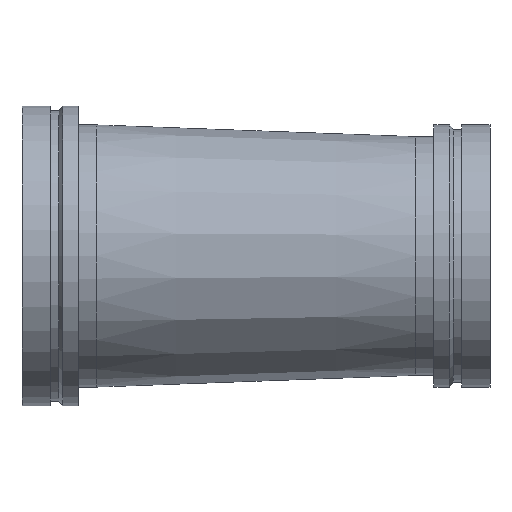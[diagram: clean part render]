
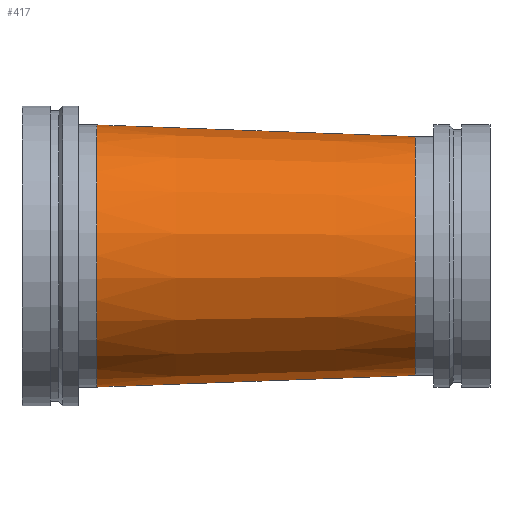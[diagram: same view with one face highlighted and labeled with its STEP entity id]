
A CAD part, top view. The second image highlights one B-rep face of the part: STEP entity #417.
In plain terms, the highlighted conical face has half-angle 2.106 degrees and reference radius 169.863 mm.
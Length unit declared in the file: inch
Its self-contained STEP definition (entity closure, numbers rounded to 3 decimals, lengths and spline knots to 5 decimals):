
#46=CONICAL_SURFACE('',#475,6.6875,0.037);
#54=LINE('',#739,#68);
#68=VECTOR('',#587,6.6875);
#101=FACE_OUTER_BOUND('',#124,.T.);
#124=EDGE_LOOP('',(#315,#316,#317,#318,#319,#320));
#155=CIRCLE('',#473,7.);
#156=CIRCLE('',#474,7.);
#157=CIRCLE('',#476,6.375);
#158=CIRCLE('',#477,6.375);
#195=VERTEX_POINT('',#729);
#196=VERTEX_POINT('',#730);
#197=VERTEX_POINT('',#735);
#198=VERTEX_POINT('',#736);
#239=EDGE_CURVE('',#195,#196,#155,.T.);
#240=EDGE_CURVE('',#196,#195,#156,.T.);
#242=EDGE_CURVE('',#197,#198,#157,.T.);
#243=EDGE_CURVE('',#198,#197,#158,.T.);
#244=EDGE_CURVE('',#198,#196,#54,.T.);
#315=ORIENTED_EDGE('',*,*,#242,.F.);
#316=ORIENTED_EDGE('',*,*,#243,.F.);
#317=ORIENTED_EDGE('',*,*,#244,.T.);
#318=ORIENTED_EDGE('',*,*,#240,.T.);
#319=ORIENTED_EDGE('',*,*,#239,.T.);
#320=ORIENTED_EDGE('',*,*,#244,.F.);
#417=ADVANCED_FACE('',(#101),#46,.T.);
#473=AXIS2_PLACEMENT_3D('',#731,#576,#577);
#474=AXIS2_PLACEMENT_3D('',#732,#578,#579);
#475=AXIS2_PLACEMENT_3D('',#734,#581,#582);
#476=AXIS2_PLACEMENT_3D('',#737,#583,#584);
#477=AXIS2_PLACEMENT_3D('',#738,#585,#586);
#576=DIRECTION('center_axis',(1.,0.,0.));
#577=DIRECTION('ref_axis',(0.,0.,-1.));
#578=DIRECTION('center_axis',(1.,0.,0.));
#579=DIRECTION('ref_axis',(0.,0.,-1.));
#581=DIRECTION('center_axis',(-1.,0.,0.));
#582=DIRECTION('ref_axis',(0.,1.,0.));
#583=DIRECTION('center_axis',(1.,0.,0.));
#584=DIRECTION('ref_axis',(0.,0.,-1.));
#585=DIRECTION('center_axis',(1.,0.,0.));
#586=DIRECTION('ref_axis',(0.,0.,-1.));
#587=DIRECTION('',(-0.999,-0.037,0.));
#729=CARTESIAN_POINT('',(4.,7.,0.));
#730=CARTESIAN_POINT('',(4.,-7.,0.));
#731=CARTESIAN_POINT('Origin',(4.,0.,0.));
#732=CARTESIAN_POINT('Origin',(4.,0.,0.));
#734=CARTESIAN_POINT('Origin',(12.5,0.,0.));
#735=CARTESIAN_POINT('',(21.,6.375,0.));
#736=CARTESIAN_POINT('',(21.,-6.375,0.));
#737=CARTESIAN_POINT('Origin',(21.,0.,0.));
#738=CARTESIAN_POINT('Origin',(21.,0.,0.));
#739=CARTESIAN_POINT('',(12.5,-6.6875,0.));
